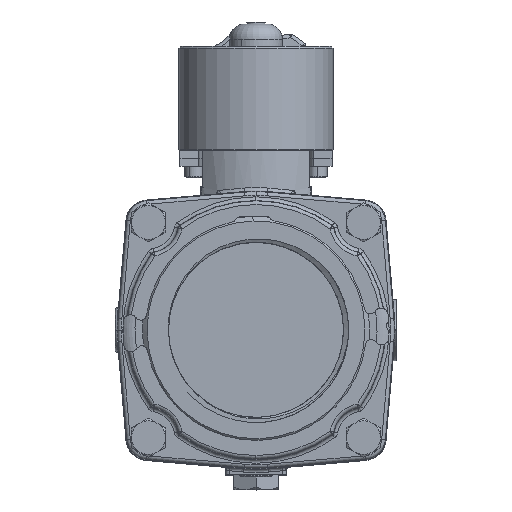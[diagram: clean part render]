
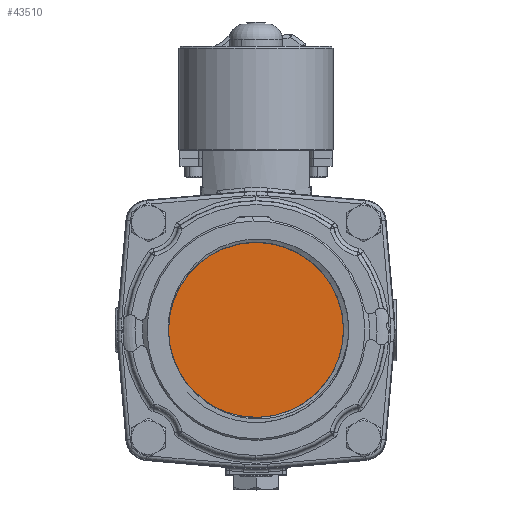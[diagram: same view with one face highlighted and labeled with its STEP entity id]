
A CAD part, top view. The second image highlights one B-rep face of the part: STEP entity #43510.
In plain terms, the highlighted planar face has unit normal (0, 0, 1).
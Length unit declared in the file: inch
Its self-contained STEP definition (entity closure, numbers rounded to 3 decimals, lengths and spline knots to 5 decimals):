
#612 = PLANE ( 'NONE',  #17770 ) ;
#9058 = DIRECTION ( 'NONE',  ( 0., 0., 1. ) ) ;
#16044 = DIRECTION ( 'NONE',  ( 0., 0., 1. ) ) ;
#16639 = AXIS2_PLACEMENT_3D ( 'NONE', #41188, #16044, #45425 ) ;
#16902 = EDGE_CURVE ( 'NONE', #28711, #22789, #18823, .T. ) ;
#17770 = AXIS2_PLACEMENT_3D ( 'NONE', #30032, #9058, #38435 ) ;
#18638 = DIRECTION ( 'NONE',  ( 0., 0., 1. ) ) ;
#18823 = CIRCLE ( 'NONE', #34510, 1.5935 ) ;
#22789 = VERTEX_POINT ( 'NONE', #42093 ) ;
#25422 = EDGE_CURVE ( 'NONE', #22789, #28711, #42805, .T. ) ;
#26915 = FACE_OUTER_BOUND ( 'NONE', #27912, .T. ) ;
#27912 = EDGE_LOOP ( 'NONE', ( #44040, #46623 ) ) ;
#28711 = VERTEX_POINT ( 'NONE', #51881 ) ;
#30032 = CARTESIAN_POINT ( 'NONE',  ( 0., 0., 3.15843 ) ) ;
#34510 = AXIS2_PLACEMENT_3D ( 'NONE', #43815, #18638, #48030 ) ;
#38435 = DIRECTION ( 'NONE',  ( 1., 0., 0. ) ) ;
#41188 = CARTESIAN_POINT ( 'NONE',  ( 0., 0., 3.15843 ) ) ;
#42093 = CARTESIAN_POINT ( 'NONE',  ( 0.04329, -1.59291, 3.15843 ) ) ;
#42805 = CIRCLE ( 'NONE', #16639, 1.5935 ) ;
#43510 = ADVANCED_FACE ( 'NONE', ( #26915 ), #612, .T. ) ;
#43815 = CARTESIAN_POINT ( 'NONE',  ( 0., 0., 3.15843 ) ) ;
#44040 = ORIENTED_EDGE ( 'NONE', *, *, #16902, .T. ) ;
#45425 = DIRECTION ( 'NONE',  ( 0.027, -1., 0. ) ) ;
#46623 = ORIENTED_EDGE ( 'NONE', *, *, #25422, .T. ) ;
#48030 = DIRECTION ( 'NONE',  ( 0.027, -1., 0. ) ) ;
#51881 = CARTESIAN_POINT ( 'NONE',  ( -0.04329, 1.59291, 3.15843 ) ) ;
